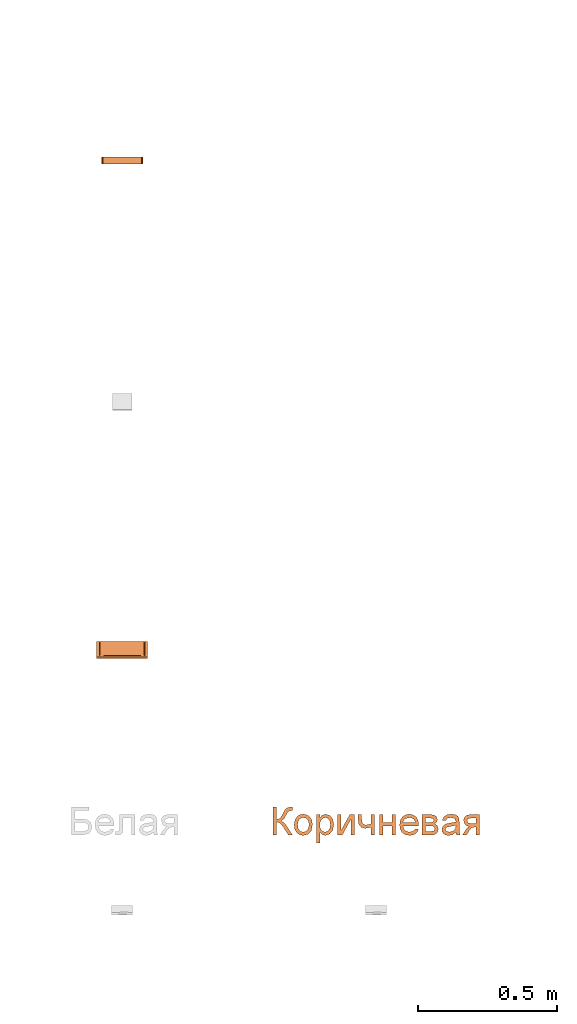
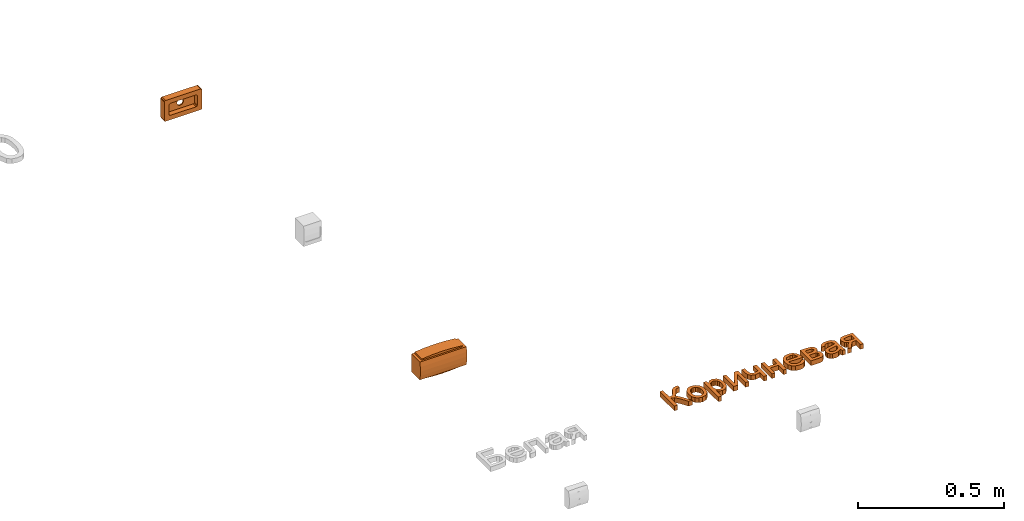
# One storey, part 57 of 87: 3 proxies.
"""IFC2X3 building model written with IfcOpenShell, lengths in millimetres."""

from ifc_helpers import new_model, entity, si_unit, converted_unit, derived_unit, direction, frame, frame_2d, origin, place, context, subcontext, project, spatial, polyline, circle_curve, parameter, trimmed, segment, composite_curve, outline, extrude, faceted_brep, source, transform, mapped, material, type_object, type_shapes, element, save


model = new_model("IFC2X3")

# Units and contexts
model_context = context("Model", 3, precision=0.01, world=origin(), true_north=direction((6.12303176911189e-17, 1.0)))
body_context = subcontext(model_context, "Body", "Model", "MODEL_VIEW")
ifc_project = project(units=[si_unit("LENGTHUNIT", "METRE", prefix="MILLI"), si_unit("AREAUNIT", "SQUARE_METRE"), si_unit("VOLUMEUNIT", "CUBIC_METRE"), converted_unit("PLANEANGLEUNIT", "DEGREE", entity("IfcRatioMeasure", 0.0174532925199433), si_unit("PLANEANGLEUNIT", "RADIAN"), dimensions=[0, 0, 0, 0, 0, 0, 0]), si_unit("MASSUNIT", "GRAM", prefix="KILO"), derived_unit("MASSDENSITYUNIT", [(si_unit("MASSUNIT", "GRAM", prefix="KILO"), 1), (si_unit("LENGTHUNIT", "METRE"), -3)]), si_unit("TIMEUNIT", "SECOND"), si_unit("FREQUENCYUNIT", "HERTZ"), si_unit("THERMODYNAMICTEMPERATUREUNIT", "DEGREE_CELSIUS"), derived_unit("THERMALTRANSMITTANCEUNIT", [(si_unit("MASSUNIT", "GRAM", prefix="KILO"), 1), (si_unit("THERMODYNAMICTEMPERATUREUNIT", "KELVIN"), -1), (si_unit("TIMEUNIT", "SECOND"), -3)]), derived_unit("VOLUMETRICFLOWRATEUNIT", [(si_unit("LENGTHUNIT", "METRE"), 3), (si_unit("TIMEUNIT", "SECOND"), -1)]), si_unit("ELECTRICCURRENTUNIT", "AMPERE"), si_unit("ELECTRICVOLTAGEUNIT", "VOLT"), si_unit("POWERUNIT", "WATT"), si_unit("FORCEUNIT", "NEWTON", prefix="KILO"), si_unit("ILLUMINANCEUNIT", "LUX"), si_unit("LUMINOUSFLUXUNIT", "LUMEN"), si_unit("LUMINOUSINTENSITYUNIT", "CANDELA"), derived_unit("USERDEFINED", [(si_unit("MASSUNIT", "GRAM", prefix="KILO"), -1), (si_unit("LENGTHUNIT", "METRE"), -2), (si_unit("TIMEUNIT", "SECOND"), 3), (si_unit("LUMINOUSFLUXUNIT", "LUMEN"), 1)]), derived_unit("LINEARVELOCITYUNIT", [(si_unit("LENGTHUNIT", "METRE"), 1), (si_unit("TIMEUNIT", "SECOND"), -1)]), si_unit("PRESSUREUNIT", "PASCAL"), derived_unit("USERDEFINED", [(si_unit("LENGTHUNIT", "METRE"), -2), (si_unit("MASSUNIT", "GRAM", prefix="KILO"), 1), (si_unit("TIMEUNIT", "SECOND"), -2)])], contexts=[model_context])

# Site, building, storey
site_placement = place(None, origin())
site = spatial("IfcSite", under=ifc_project, at=site_placement, Name="Default", CompositionType="ELEMENT")
building_placement = place(site_placement, origin())
building = spatial("IfcBuilding", under=site, at=building_placement, Name="Наименование здания", CompositionType="ELEMENT")
storey_placement = place(building_placement, origin())
storey = spatial("IfcBuildingStorey", under=building, at=storey_placement, Name="Этаж 01", CompositionType="ELEMENT", Elevation=0.0)

# Proxies
ifc_material = material(Name="DKC_Пластик_Белый")
building_element_proxy_type_1 = type_object("IfcBuildingElementProxyType", Name="Белая", PredefinedType="NOTDEFINED", material=ifc_material)
shared_shape_1 = source(origin(), body_context, "Body", "Brep", [
    faceted_brep([(74.5000000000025, 0.0, 38.5000000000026), (73.0355339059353, 0.0, 42.0355339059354), (69.5000000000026, 0.0, 43.5000000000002), (54.5355339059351, 0.0, 23.5355339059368), (56.0, 0.0, 20.0), (56.0, 0.0, -20.0), (74.5000000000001, 0.0, -38.5000000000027), (51.0, 0.0, 25.0), (-51.0, 0.0, 25.0), (-69.5000000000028, 0.0, 43.5000000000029), (-54.5355339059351, 0.0, 23.5355339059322), (-74.5000000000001, 0.0, 38.5000000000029), (-73.0355339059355, 0.0, 42.0355339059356), (-56.0, 0.0, 20.0), (-56.0, 0.0, -20.0), (-74.5000000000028, 0.0, -38.5000000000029), (-54.5355339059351, 0.0, -23.5355339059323), (-69.5000000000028, 0.0, -43.5000000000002), (-73.0355339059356, 0.0, -42.0355339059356), (-51.0, 0.0, -25.0), (69.5000000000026, 0.0, -43.5000000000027), (73.0355339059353, 0.0, -42.0355339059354), (54.5355339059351, 0.0, -23.5355339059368), (51.0, 0.0, -25.0), (-73.0355339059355, 25.3999999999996, 42.0355339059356), (-69.5000000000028, 25.3999999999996, 43.5000000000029), (-74.5000000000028, 25.3999999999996, 38.5000000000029), (-12.2672579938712, 25.3999999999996, 3.28700187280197), (-10.9985226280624, 25.3999999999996, 6.34999999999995), (-8.9802561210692, 25.3999999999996, 8.98025612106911), (-6.35000000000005, 25.3999999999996, 10.9985226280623), (-3.28700187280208, 25.3999999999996, 12.2672579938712), (0.0, 25.3999999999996, 12.7), (69.5000000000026, 25.3999999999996, 43.5000000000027), (3.28700187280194, 25.3999999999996, 12.2672579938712), (6.34999999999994, 25.3999999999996, 10.9985226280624), (8.9802561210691, 25.3999999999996, 8.98025612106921), (10.9985226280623, 25.3999999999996, 6.35000000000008), (12.2672579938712, 25.3999999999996, 3.2870018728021), (74.5000000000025, 25.3999999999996, 38.5000000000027), (73.0355339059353, 25.3999999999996, 42.0355339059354), (12.7, 25.3999999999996, 0.0), (74.5000000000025, 25.3999999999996, -38.5000000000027), (12.2672579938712, 25.3999999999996, -3.28700187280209), (69.5000000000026, 25.3999999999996, -43.5000000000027), (73.0355339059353, 25.3999999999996, -42.0355339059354), (10.9985226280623, 25.3999999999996, -6.35000000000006), (8.9802561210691, 25.3999999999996, -8.98025612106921), (6.34999999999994, 25.3999999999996, -10.9985226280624), (3.28700187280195, 25.3999999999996, -12.2672579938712), (0.0, 25.3999999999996, -12.7), (-69.5000000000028, 25.3999999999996, -43.5000000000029), (-3.28700187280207, 25.3999999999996, -12.2672579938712), (-6.35000000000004, 25.3999999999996, -10.9985226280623), (-8.98025612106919, 25.3999999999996, -8.98025612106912), (-10.9985226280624, 25.3999999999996, -6.34999999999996), (-12.2672579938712, 25.3999999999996, -3.28700187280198), (-74.5000000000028, 25.3999999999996, -38.5000000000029), (-73.0355339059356, 25.3999999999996, -42.0355339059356), (-12.7, 25.3999999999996, 0.0), (-56.0, 20.0, 20.0), (-51.0, 20.0, 25.0), (-54.5355339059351, 20.0, 23.5355339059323), (-12.2672579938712, 20.0, 3.28700187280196), (-12.7, 20.0, 0.0), (-56.0, 20.0, -20.0), (-12.2672579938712, 20.0, -3.28700187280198), (-51.0, 20.0, -25.0), (-54.5355339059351, 20.0, -23.5355339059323), (-10.9985226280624, 20.0, -6.34999999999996), (-8.98025612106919, 20.0, -8.98025612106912), (-6.35000000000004, 20.0, -10.9985226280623), (-3.28700187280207, 20.0, -12.2672579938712), (0.0, 20.0, -12.7), (51.0, 20.0, -25.0), (3.28700187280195, 20.0, -12.2672579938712), (6.34999999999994, 20.0, -10.9985226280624), (8.98025612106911, 20.0, -8.9802561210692), (10.9985226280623, 20.0, -6.35000000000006), (12.2672579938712, 20.0, -3.28700187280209), (56.0, 20.0, -20.0), (54.5355339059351, 20.0, -23.5355339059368), (12.7, 20.0, 0.0), (56.0, 20.0, 20.0), (12.2672579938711, 20.0, 3.2870018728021), (51.0, 20.0, 25.0), (54.5355339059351, 20.0, 23.5355339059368), (0.0, 20.0, 12.7), (10.9985226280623, 20.0, 6.35000000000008), (8.9802561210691, 20.0, 8.98025612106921), (6.34999999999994, 20.0, 10.9985226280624), (3.28700187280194, 20.0, 12.2672579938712), (-10.9985226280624, 20.0, 6.34999999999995), (-8.9802561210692, 20.0, 8.98025612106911), (-6.35000000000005, 20.0, 10.9985226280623), (-3.28700187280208, 20.0, 12.2672579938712)], [[[0, 1, 2]], [[0, 2, 3]], [[3, 4, 0]], [[0, 4, 5]], [[6, 0, 5]], [[7, 3, 2]], [[2, 8, 7]], [[8, 2, 9]], [[10, 8, 9]], [[9, 11, 10]], [[9, 12, 11]], [[13, 10, 11]], [[13, 11, 14]], [[14, 11, 15]], [[16, 14, 15]], [[15, 17, 16]], [[17, 15, 18]], [[19, 16, 17]], [[19, 17, 20]], [[6, 20, 21]], [[20, 6, 22]], [[22, 23, 20]], [[20, 23, 19]], [[5, 22, 6]], [[24, 25, 26]], [[27, 26, 25]], [[25, 28, 27]], [[29, 28, 25]], [[30, 29, 25]], [[31, 30, 25]], [[32, 31, 25]], [[25, 33, 32]], [[34, 32, 33]], [[35, 34, 33]], [[35, 33, 36]], [[37, 36, 33]], [[33, 38, 37]], [[39, 38, 33]], [[33, 40, 39]], [[38, 39, 41]], [[41, 39, 42]], [[43, 41, 42]], [[42, 44, 43]], [[44, 42, 45]], [[46, 43, 44]], [[46, 44, 47]], [[48, 47, 44]], [[48, 44, 49]], [[50, 49, 44]], [[50, 44, 51]], [[51, 52, 50]], [[53, 52, 51]], [[54, 53, 51]], [[55, 54, 51]], [[56, 55, 51]], [[51, 57, 56]], [[51, 58, 57]], [[59, 57, 26]], [[57, 59, 56]], [[26, 27, 59]], [[9, 2, 33, 25]], [[9, 25, 24, 12]], [[24, 26, 11, 12]], [[15, 11, 26, 57]], [[15, 57, 58, 18]], [[58, 51, 17, 18]], [[20, 17, 51, 44]], [[20, 44, 45, 21]], [[45, 42, 6, 21]], [[0, 6, 42, 39]], [[0, 39, 40, 1]], [[40, 33, 2, 1]], [[60, 61, 62]], [[61, 60, 63]], [[64, 63, 60]], [[60, 65, 64]], [[66, 64, 65]], [[66, 65, 67]], [[65, 68, 67]], [[67, 69, 66]], [[67, 70, 69]], [[67, 71, 70]], [[67, 72, 71]], [[73, 72, 67]], [[67, 74, 73]], [[74, 75, 73]], [[75, 74, 76]], [[74, 77, 76]], [[77, 74, 78]], [[74, 79, 78]], [[79, 74, 80]], [[81, 80, 74]], [[80, 82, 79]], [[80, 83, 82]], [[82, 83, 84]], [[85, 84, 83]], [[83, 86, 85]], [[87, 85, 61]], [[88, 84, 85]], [[85, 89, 88]], [[89, 85, 90]], [[85, 91, 90]], [[85, 87, 91]], [[63, 92, 61]], [[61, 92, 93]], [[61, 93, 94]], [[61, 94, 95]], [[61, 95, 87]], [[85, 7, 8, 61]], [[10, 62, 61, 8]], [[13, 60, 62, 10]], [[60, 13, 14, 65]], [[16, 68, 65, 14]], [[19, 67, 68, 16]], [[67, 19, 23, 74]], [[22, 81, 74, 23]], [[5, 80, 81, 22]], [[80, 5, 4, 83]], [[3, 86, 83, 4]], [[7, 85, 86, 3]], [[59, 64, 66, 56]], [[56, 66, 69, 55]], [[53, 54, 70, 71]], [[70, 54, 55, 69]], [[52, 53, 71, 72]], [[52, 72, 73, 50]], [[50, 73, 75, 49]], [[49, 75, 76, 48]], [[46, 47, 77, 78]], [[77, 47, 48, 76]], [[43, 46, 78, 79]], [[43, 79, 82, 41]], [[41, 82, 84, 38]], [[38, 84, 88, 37]], [[35, 36, 89, 90]], [[89, 36, 37, 88]], [[34, 35, 90, 91]], [[34, 91, 87, 32]], [[32, 87, 95, 31]], [[31, 95, 94, 30]], [[28, 29, 93, 92]], [[93, 29, 30, 94]], [[27, 28, 92, 63]], [[27, 63, 64, 59]]]),
])
type_shapes(building_element_proxy_type_1, [shared_shape_1])
proxy_1_placement = place(storey_placement, frame((44616.893252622, 1323.59100877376, 0.0)))
element("IfcBuildingElementProxy", 1, at=proxy_1_placement, inside=storey, type_object=building_element_proxy_type_1, material=ifc_material, Name="КНС_КоробкаМонтажнаяПод4МодуляЭлектроустановочныхИзделийPDD-N120_ILF_DKC:Белая", ObjectType="Белая", context=body_context, shape_type="MappedRepresentation", body=[
    mapped(shared_shape_1, transform((0.0, 0.0, 0.0), scale=1.0)),
])
building_element_proxy_type_2 = type_object("IfcBuildingElementProxyType", Name="Коробка распределительная настенная Brava_ILF_DKC", PredefinedType="NOTDEFINED", material=ifc_material)
shared_shape_2 = source(origin(), body_context, "Body", "SweptSolid", [
    extrude(outline(composite_curve([segment(polyline([(-42.8749999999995, -69.9315513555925), (-37.8749999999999, -69.9315513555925)]), True, "CONTINUOUS"), segment(trimmed(circle_curve(frame_2d((-582.146347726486, 336.102350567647), x_axis=(-0.5, -0.866025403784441)), 679.039637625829), [parameter(83.2765557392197)], [parameter(96.7234442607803)], True, "PARAMETER"), True, "CONTINUOUS"), segment(polyline([(41.6249999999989, 67.7664878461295), (39.1250000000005, 72.0966148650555)]), True, "CONTINUOUS"), segment(polyline([(39.1250000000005, 72.0966148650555), (-42.8749999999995, -69.9315513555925)]), True, "CONTINUOUS")], self_intersect=False)), frame((0.0, -49.1824939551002, -39.6650635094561), z_axis=(0.0, 1.0, 0.0), x_axis=(-0.5, 0.0, -0.866025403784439)), (0.0, 0.0, 1.0), 49.1824939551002),
    extrude(outline(composite_curve([segment(polyline([(-82.0, -2.16506350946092), (82.0, -2.16506350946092)]), True, "CONTINUOUS"), segment(polyline([(82.0, -2.16506350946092), (79.499999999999, 2.1650635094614)]), True, "CONTINUOUS"), segment(trimmed(circle_curve(frame_2d((0.0, -672.20470113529), x_axis=(-1.0, 0.0)), 679.039637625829), [parameter(263.27655573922)], [parameter(276.72344426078)], True, "PARAMETER"), True, "CONTINUOUS"), segment(polyline([(-79.5000000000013, 2.16506350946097), (-82.0, -2.16506350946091)]), True, "CONTINUOUS")], self_intersect=False)), frame((0.0, -49.1824939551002, 39.6650635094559), z_axis=(0.0, 1.0, 0.0), x_axis=(-1.0, 0.0, 0.0)), (0.0, 0.0, 1.0), 49.1824939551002),
    extrude(outline(composite_curve([segment(polyline([(-37.5000000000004, -28.0), (37.5000000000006, -28.0)]), True, "CONTINUOUS"), segment(polyline([(37.5000000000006, -28.0), (37.4999999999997, 28.0)]), True, "CONTINUOUS"), segment(trimmed(circle_curve(frame_2d((0.0, -110.124999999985), x_axis=(0.0, -1.0)), 143.124999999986), [parameter(164.810713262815)], [parameter(195.189286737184)], True, "PARAMETER"), True, "CONTINUOUS"), segment(polyline([(-37.5000000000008, 28.0), (-37.5000000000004, -28.0)]), True, "CONTINUOUS")], self_intersect=False)), frame((-92.0, -28.0, 0.0), z_axis=(1.0, 0.0, 0.0), x_axis=(0.0, 0.0, 1.0)), (0.0, 0.0, 1.0), 184.0),
])
type_shapes(building_element_proxy_type_2, [shared_shape_2])
proxy_2_placement = place(storey_placement, frame((44616.893252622, -396.883312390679, 0.0)))
element("IfcBuildingElementProxy", 2, at=proxy_2_placement, inside=storey, type_object=building_element_proxy_type_2, material=ifc_material, Name="КНС_КоробкаРаспределительнаяНастеннаяBrava_ILF_DKC:Коробка распределительная настенная Brava_ILF_DKC", ObjectType="Коробка распределительная настенная Brava_ILF_DKC", context=body_context, shape_type="MappedRepresentation", body=[
    mapped(shared_shape_2, transform((0.0, 0.0, 0.0), scale=1.0)),
])
proxy_3_placement = place(storey_placement, origin())
element("IfcBuildingElementProxy", 3, at=proxy_3_placement, inside=storey, Name="Текст модели:100 мм Arial", ObjectType="Текст модели:100 мм Arial", context=body_context, shape_type="SweptSolid", body=[
    extrude(outline(polyline([(-40.1432833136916, -39.8663907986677), (60.3130268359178, -39.8663907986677), (60.3130268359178, -27.3093520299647), (13.2241314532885, -27.3093520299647), (17.2340452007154, -14.2250157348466), (32.0106386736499, -1.65571423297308), (60.3130268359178, 16.1988252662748), (60.3130268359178, 30.766952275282), (26.8112398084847, 9.65052575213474), (14.9777022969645, 0.0917252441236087), (9.30005683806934, -9.60196532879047), (4.10065797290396, -0.932212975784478), (-24.5696121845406, 15.414010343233), (-27.5862445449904, 25.2241968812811), (-27.4390917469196, 30.766952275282), (-39.9961305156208, 30.766952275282), (-40.1432833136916, 22.5263955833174), (-37.3228546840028, 11.30599473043), (-30.3698849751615, 3.45784549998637), (-16.3290554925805, -3.47059874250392), (0.483151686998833, -13.2685225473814), (3.80635237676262, -27.3093520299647), (-40.1432833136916, -27.3093520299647), (-40.1432833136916, -39.8663907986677)])), frame((45199.7154625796, -1033.44419880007, 0.0), z_axis=(0.0, 0.0, 1.0), x_axis=(0.0, -1.0, 0.0)), (0.0, 0.0, 1.0), 20.0),
    extrude(outline(polyline([(-2.34029740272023, -31.6984909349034), (14.2731811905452, -31.6984909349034), (27.1869525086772, -26.5873672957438), (35.9909592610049, -17.1811275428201), (40.2751441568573, -4.29577920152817), (38.1491713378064, 13.1690451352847), (27.2514955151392, 26.6485362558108), (5.67797919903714, 33.7446283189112), (-10.1280544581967, 33.6081083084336), (-22.8059382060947, 28.3900569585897), (-31.6389568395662, 18.975453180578), (-35.9103951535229, 6.24927588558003), (-35.5406401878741, -5.9710903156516), (-30.8535887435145, -16.7835237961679), (-19.5870121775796, -26.5692340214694), (-2.34029740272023, -31.6984909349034)]), holes=[polyline([(-0.642949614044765, -19.2566729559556), (-11.6948097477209, -16.259966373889), (-19.0989004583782, -10.8341828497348), (-22.9822632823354, -3.67356758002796), (-23.4719397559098, 4.52763423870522), (-20.7783225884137, 12.2046648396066), (-15.0781786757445, 18.0357050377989), (-6.56600936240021, 21.2863283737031), (4.56368400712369, 21.2221083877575), (15.8675929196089, 18.1905150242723), (23.3961896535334, 12.7474982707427), (27.3267847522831, 5.59272509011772), (27.8366887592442, -2.57413755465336), (25.1317228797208, -10.3331599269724), (19.4311586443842, -16.1672368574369), (10.8134498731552, -19.3753979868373), (-0.642949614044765, -19.2566729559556)])]), frame((45268.4809461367, -1054.84307694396, 0.0), z_axis=(0.0, 0.0, 1.0), x_axis=(0.137105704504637, -0.990556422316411, 0.0)), (0.0, 0.0, 1.0), 20.0),
    extrude(outline(polyline([(-28.8983569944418, -61.2335493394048), (-16.3413182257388, -61.2335493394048), (-16.3413182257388, -23.1700255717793), (-8.38280439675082, -31.3247431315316), (2.54329085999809, -34.5498419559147), (18.4235303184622, -29.7305878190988), (29.9259740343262, -15.8736993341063), (33.8868368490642, 4.47017499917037), (30.3796951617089, 23.8207679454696), (19.9808974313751, 37.5059781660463), (4.0638697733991, 42.3620205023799), (-7.65930313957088, 38.8916670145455), (-16.3413182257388, 28.4806065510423), (-16.3413182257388, 40.7923906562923), (-28.8983569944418, 40.7923906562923), (-28.8983569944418, -61.2335493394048)]), holes=[polyline([(-16.3413182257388, 3.31747808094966), (-14.8912500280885, 14.7064915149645), (-10.54104543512, 23.0236902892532), (-4.30851130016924, 28.1096588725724), (2.78854552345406, 29.8049817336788), (9.85801119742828, 28.210826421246), (15.8606190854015, 23.4283604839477), (19.9625033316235, 15.4453211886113), (21.3297980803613, 4.24944580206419), (19.9287808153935, -7.43080754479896), (15.7257290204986, -15.5916564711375), (9.56063991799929, -20.3925165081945), (2.27351073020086, -21.9928031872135), (-4.8971224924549, -20.4476988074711), (-10.9089274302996, -15.8123856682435), (-14.9832205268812, -7.93971097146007), (-16.3413182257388, 3.31747808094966)])]), frame((45345.7104133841, -1060.77701352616, 0.0)), (0.0, 0.0, 1.0), 20.0),
    extrude(outline(polyline([(-36.9206370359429, -29.8425874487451), (36.8519657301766, -29.8425874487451), (36.8519657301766, -13.4105249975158), (-19.0660975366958, 17.2463079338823), (36.8519657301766, 17.2463079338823), (36.8519657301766, 29.8033467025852), (-36.9206370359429, 29.8033467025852), (-36.9206370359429, 13.5674879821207), (19.3407827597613, -17.2855486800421), (-36.9206370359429, -17.2855486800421), (-36.9206370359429, -29.8425874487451)])), frame((45423.5665062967, -1056.90525990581, 0.0), z_axis=(0.0, 0.0, 1.0), x_axis=(0.0, -1.0, 0.0)), (0.0, 0.0, 1.0), 20.0),
    extrude(outline(polyline([(-30.7618325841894, -26.323489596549), (-10.4056955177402, -26.323489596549), (3.94170229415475, -24.1161976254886), (14.9658994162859, -15.7407508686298), (19.4663224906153, -1.50371765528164), (15.1498404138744, 19.1957759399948), (43.0107701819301, 19.1957759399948), (43.0107701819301, 31.7528147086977), (-30.7618325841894, 31.7528147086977), (-30.7618325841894, 19.1957759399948), (3.10783643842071, 19.1957759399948), (6.90928372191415, 1.85627123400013), (3.84360042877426, -7.85581343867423), (-3.34236121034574, -12.748643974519), (-16.6106385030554, -13.7664508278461), (-30.7618325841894, -13.7664508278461), (-30.7618325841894, -26.323489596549)])), frame((45493.8200112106, -1050.74645545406, 0.0), z_axis=(0.0, 0.0, 1.0), x_axis=(0.0, -1.0, 0.0)), (0.0, 0.0, 1.0), 20.0),
    extrude(outline(polyline([(-36.1014864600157, -29.0381521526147), (37.6711163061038, -29.0381521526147), (37.6711163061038, -16.4811133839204), (4.70888953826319, -16.4811133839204), (4.70888953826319, 16.4811133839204), (37.6711163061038, 16.4811133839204), (37.6711163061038, 29.0381521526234), (-36.1014864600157, 29.0381521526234), (-36.1014864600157, 16.4811133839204), (-7.84814923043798, 16.4811133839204), (-7.84814923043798, -16.4811133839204), (-36.1014864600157, -16.4811133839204), (-36.1014864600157, -29.0381521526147)])), frame((45573.446536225, -1056.08610932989, 0.0), z_axis=(0.0, 0.0, 1.0), x_axis=(0.0, -1.0, 0.0)), (0.0, 0.0, 1.0), 20.0),
    extrude(outline(polyline([(-8.10128238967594, -20.3751729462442), (-15.5352214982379, -30.3140016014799), (-5.78400372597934, -33.5775071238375), (4.12185089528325, -33.3132173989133), (13.8776168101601, -29.448077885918), (23.1785684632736, -21.9090340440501), (31.6380426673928, -9.59237957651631), (34.1620486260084, 3.74135328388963), (30.6040508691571, 17.2442201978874), (20.8175139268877, 30.068276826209), (7.27698270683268, 39.7846728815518), (-6.66179525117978, 43.1117813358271), (-19.9642596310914, 40.4221234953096), (-31.5958501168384, 32.0882206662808), (-39.2435519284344, 20.5090048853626), (-41.3106827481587, 7.34319797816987), (-37.4373707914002, -6.34962495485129), (-27.2637442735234, -19.5098888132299), (-24.780458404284, -21.8106804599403), (14.4643272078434, 18.7422646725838), (19.7071986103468, 10.6437992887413), (21.1614672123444, 2.21005051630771), (19.1472085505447, -5.98136753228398), (13.9844981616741, -13.3528407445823), (3.53684605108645, -20.3751729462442), (-8.10128238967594, -20.3751729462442)]), holes=[polyline([(5.44081225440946, 27.4746984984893), (-25.122706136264, -4.107603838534), (-29.8038819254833, 7.41909510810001), (-27.8851342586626, 15.7498710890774), (-22.5382240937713, 23.3910349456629), (-8.40970331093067, 31.2368652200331), (-1.08072680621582, 30.914728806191), (5.44081225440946, 27.4746984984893)])]), frame((45652.6954303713, -1063.43467481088, 0.0), z_axis=(0.0, 0.0, -1.0), x_axis=(-0.695421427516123, -0.718602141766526, 0.0)), (0.0, 0.0, -1.0), 20.0),
    extrude(outline(polyline([(-37.9619182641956, -40.7346098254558), (35.8106845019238, -40.7346098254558), (35.8106845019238, -8.82697811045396), (34.4801779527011, 2.14816807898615), (30.4886583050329, 10.1557328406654), (23.7502864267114, 15.2141102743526), (14.1792231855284, 17.3416944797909), (2.34568567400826, 13.9817055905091), (-4.4601312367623, 5.54494516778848), (-10.6773369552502, 12.044193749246), (-19.3961402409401, 14.2024347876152), (-30.1260317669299, 10.633979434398), (-36.2819238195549, 2.09911714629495), (-37.9619182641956, -13.0698837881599), (-37.9619182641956, -40.7346098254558)]), holes=[polyline([(-9.70858103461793, -28.1775710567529), (-25.4048794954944, -28.1775710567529), (-25.4048794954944, -15.3752776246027), (-23.6635713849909, -2.2051021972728), (-17.5076793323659, 1.64539601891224), (-12.8968916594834, -0.54963321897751), (-10.346243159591, -5.52830288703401), (-9.70858103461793, -15.7676850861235), (-9.70858103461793, -28.1775710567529)]), polyline([(23.2536457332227, -28.1775710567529), (2.84845773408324, -28.1775710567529), (2.84845773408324, -14.0018515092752), (3.58422172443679, -2.95312892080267), (7.10362614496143, 2.63867740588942), (13.1491535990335, 4.78465571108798), (20.9850400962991, 0.88510656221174), (23.2536457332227, -12.7755781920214), (23.2536457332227, -28.1775710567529)])]), frame((45738.9667188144, -1057.94654113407, 0.0), z_axis=(0.0, 0.0, 1.0), x_axis=(0.0, -1.0, 0.0)), (0.0, 0.0, 1.0), 20.0),
    extrude(outline(polyline([(32.0508237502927, 7.88266535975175), (41.9780345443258, 7.88266535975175), (45.9489188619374, 19.7953183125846), (35.1414436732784, 20.7608946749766), (14.2438893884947, 27.0545912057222), (-0.577126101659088, 31.9949297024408), (-11.1945882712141, 34.8877809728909), (-20.4974705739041, 33.9299602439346), (-28.5323068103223, 27.5470739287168), (-35.4619652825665, 13.8157249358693), (-38.3044049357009, -2.69989645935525), (-34.946215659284, -15.3493345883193), (-25.0306383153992, -24.3807697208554), (-19.5706723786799, -12.964477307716), (-25.7868125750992, -4.50695904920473), (-24.0611841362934, 8.30922519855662), (-16.2279943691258, 20.3304570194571), (-6.33956174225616, 20.6794605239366), (-3.71040200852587, 19.7255176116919), (-6.50243004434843, -2.300481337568), (-8.14662433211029, -13.2049019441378), (-7.01817966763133, -22.8490321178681), (-2.17478658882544, -31.1204151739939), (6.48825595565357, -36.5416029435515), (15.0010331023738, -37.7020395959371), (22.9495879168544, -35.3200906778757), (29.6378522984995, -29.3899394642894), (34.3697581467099, -19.9057692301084), (36.2737661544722, -6.36055543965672), (32.0508237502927, 7.88266535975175)]), holes=[polyline([(8.2255178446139, 15.8244339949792), (11.5759514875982, 14.6300664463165), (20.16143769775, 9.67421668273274), (24.4696920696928, -0.396473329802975), (23.3024692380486, -13.3987927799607), (17.2491973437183, -22.9498553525), (9.62153186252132, -24.3497471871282), (5.58084684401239, -21.193204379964), (3.98706417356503, -15.5044472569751), (5.47226797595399, -4.61166010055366), (8.2255178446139, 15.8244339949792)])]), frame((45801.4800937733, -1056.42608303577, 0.0), z_axis=(0.0, 0.0, 1.0), x_axis=(0.316227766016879, -0.9486832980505, 0.0)), (0.0, 0.0, 1.0), 20.0),
    extrude(outline(polyline([(-36.1880068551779, -39.1855638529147), (-3.42198381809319, -39.1855638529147), (7.43666640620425, -37.7079045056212), (15.3890488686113, -33.2749264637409), (20.2634853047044, -26.4691095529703), (21.8882974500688, -17.8729335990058), (17.1303569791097, -3.64816311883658), (11.0970922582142, 1.34890064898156), (2.51317903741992, 3.97925691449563), (13.2062823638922, 14.4271055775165), (25.8123720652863, 34.5870389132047), (11.2932959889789, 34.5870389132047), (1.28690572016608, 18.6454857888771), (-7.46868576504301, 7.92785699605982), (-16.7883629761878, 6.33370168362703), (-23.630968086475, 6.33370168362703), (-23.630968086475, 34.5870389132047), (-36.1880068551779, 34.5870389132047), (-36.1880068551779, -39.1855638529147)]), holes=[polyline([(-23.630968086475, -26.6285250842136), (-23.630968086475, -6.22333708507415), (-10.7796237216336, -6.22333708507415), (4.90441200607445, -8.81077378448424), (9.33125868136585, -16.9164404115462), (6.32688905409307, -23.7222573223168), (-7.07627830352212, -26.6285250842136), (-23.630968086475, -26.6285250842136)])]), frame((45869.2352418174, -1059.17018672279, 0.0), z_axis=(0.0, 0.0, 1.0), x_axis=(-1.0, 0.0, 0.0)), (0.0, 0.0, 1.0), 20.0),
])

save(model, "model.ifc")
